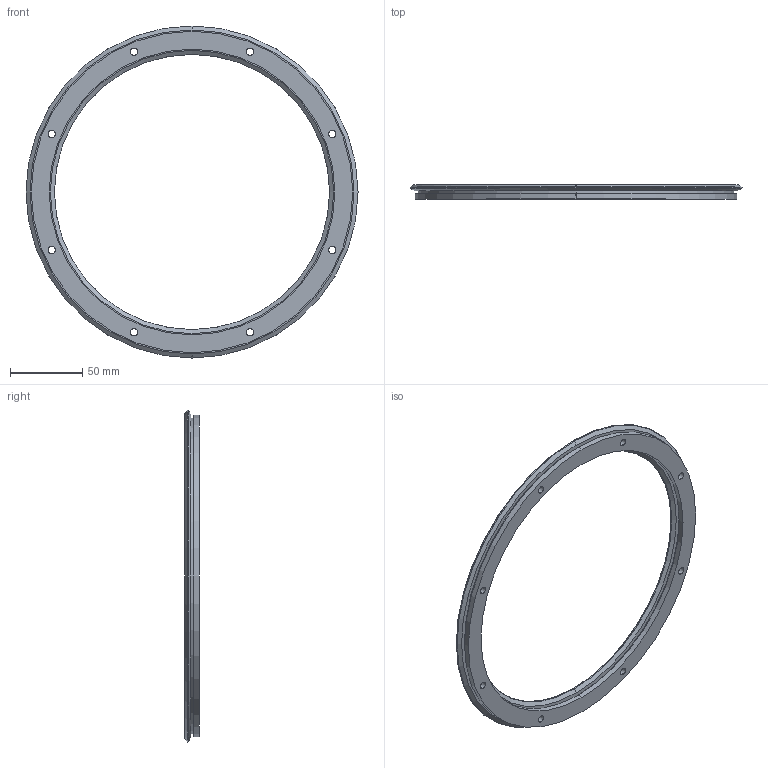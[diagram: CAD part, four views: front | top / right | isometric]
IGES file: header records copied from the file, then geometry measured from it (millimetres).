
Start section: 3D InterOp IGES (v. 2020 1.0.1), Spatial Corp. Copyright (c) 1999-2017.
Global section: file name: r20_210_r360.igs; native system: Spatial Corp.; preprocessor: 3D InterOp ACIS/IGES; author: TraceParts; organization: TraceParts S.A.; date: 20220624.024454; units: millimetre
Bounding box: 229.63 x 10 x 229.63 mm (x, y, z)
Surface area: 42144.3 mm2 (no closed solid volume)
Topology: 0 solids, 0 shells, 70 faces, 312 edges, 312 vertices
Faces by surface type: revolution 56, extrusion 14
